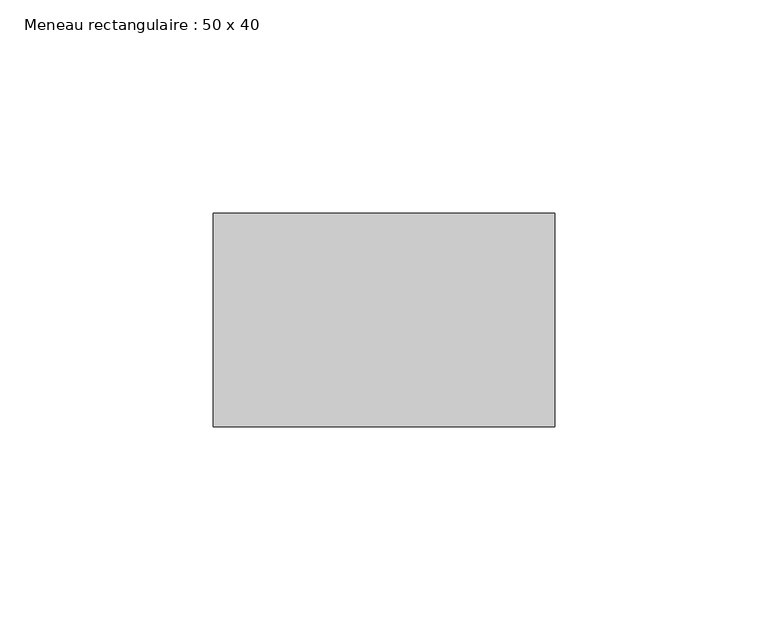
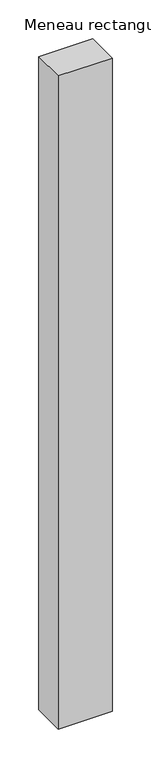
"""IFC4 building model written with IfcOpenShell, lengths in millimetres: member geometry, Meneau rectangulaire : 50 x 40."""

from ifc_helpers import new_model, si_unit, frame, origin, place, context, project, spatial, polyline, outline, extrude, source, transform, mapped, element, save


def meneau_rectangulaire_50_x_40_2a6f633e(model_context):
    return source(origin(), model_context, "Body", "SweptSolid", [
        extrude(outline(polyline([(40.0, 0.0), (40.0, -50.0), (-40.0, -50.0), (-40.0, 0.0), (40.0, 0.0)])), frame((0.0, 0.0, -1026.7402286), z_axis=(0.0, 0.0, 1.0), x_axis=(1.0, 0.0, 0.0)), (0.0, 0.0, 1.0), 1026.7402286),
    ])


if __name__ == "__main__":
    model = new_model("IFC4")
    model_context = context("Model", 3, world=origin())
    ifc_project = project(units=[si_unit("LENGTHUNIT", "METRE", prefix="MILLI")], contexts=[model_context])
    site = spatial("IfcSite", under=ifc_project)
    building = spatial("IfcBuilding", under=site)
    placement = place(None, origin())
    meneau_rectangulaire_50_x_40_shape = meneau_rectangulaire_50_x_40_2a6f633e(model_context)
    element("IfcMember", 1, ObjectType="Meneau rectangulaire : 50 x 40", at=placement, inside=building, context=model_context, shape_type="MappedRepresentation", body=[
        mapped(meneau_rectangulaire_50_x_40_shape, transform((0.0, 0.0, 0.0), x_axis=(1.0, 0.0, 0.0), y_axis=(0.0, 1.0, 0.0), z_axis=(0.0, 0.0, 1.0))),
    ])
    save(model, "model.ifc")
